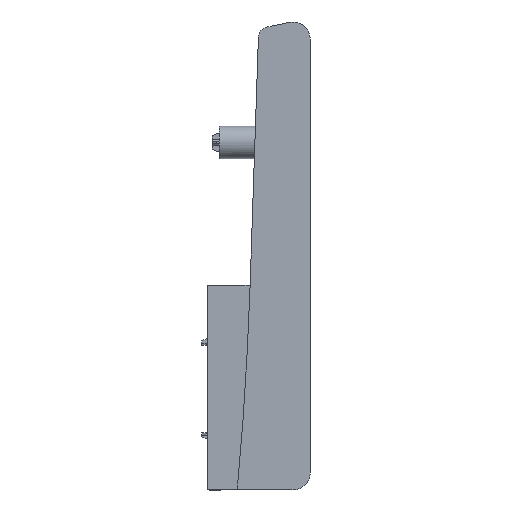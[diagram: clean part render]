
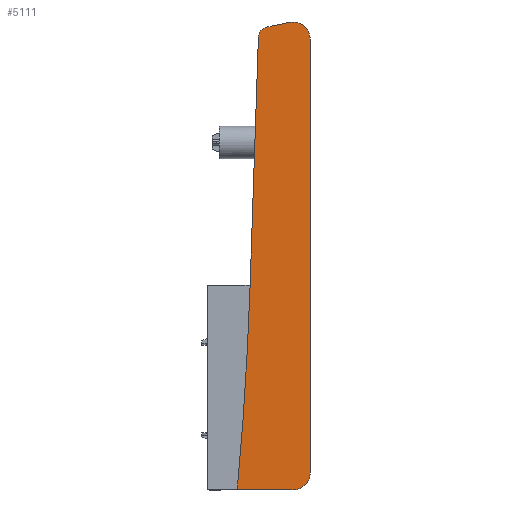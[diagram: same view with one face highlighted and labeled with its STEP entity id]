
A CAD part, top view. The second image highlights one B-rep face of the part: STEP entity #5111.
In plain terms, the highlighted planar face has unit normal (0, 0, 1).
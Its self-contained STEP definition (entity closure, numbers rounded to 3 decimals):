
#96=CIRCLE('',#5434,5.);
#97=CIRCLE('',#5435,1634.007);
#98=CIRCLE('',#5436,1.);
#99=CIRCLE('',#5437,8.);
#100=CIRCLE('',#5438,8.);
#268=FACE_OUTER_BOUND('',#548,.T.);
#548=EDGE_LOOP('',(#3895,#3896,#3897,#3898,#3899,#3900,#3901,#3902,#3903));
#864=LINE('',#7373,#1521);
#1029=LINE('',#7731,#1686);
#1030=LINE('',#7735,#1687);
#1031=LINE('',#7742,#1688);
#1521=VECTOR('',#5928,26.912);
#1686=VECTOR('',#6255,10.748);
#1687=VECTOR('',#6258,115.638);
#1688=VECTOR('',#6265,202.162);
#2179=VERTEX_POINT('',#7370);
#2180=VERTEX_POINT('',#7372);
#2291=VERTEX_POINT('',#7729);
#2292=VERTEX_POINT('',#7730);
#2293=VERTEX_POINT('',#7732);
#2294=VERTEX_POINT('',#7734);
#2295=VERTEX_POINT('',#7736);
#2296=VERTEX_POINT('',#7739);
#2297=VERTEX_POINT('',#7741);
#2712=EDGE_CURVE('',#2180,#2179,#864,.T.);
#2890=EDGE_CURVE('',#2291,#2292,#1029,.T.);
#2891=EDGE_CURVE('',#2293,#2291,#96,.T.);
#2892=EDGE_CURVE('',#2294,#2293,#1030,.T.);
#2893=EDGE_CURVE('',#2295,#2294,#97,.T.);
#2894=EDGE_CURVE('',#2180,#2295,#98,.F.);
#2895=EDGE_CURVE('',#2296,#2179,#99,.T.);
#2896=EDGE_CURVE('',#2297,#2296,#1031,.T.);
#2897=EDGE_CURVE('',#2292,#2297,#100,.T.);
#3895=ORIENTED_EDGE('',*,*,#2890,.F.);
#3896=ORIENTED_EDGE('',*,*,#2891,.F.);
#3897=ORIENTED_EDGE('',*,*,#2892,.F.);
#3898=ORIENTED_EDGE('',*,*,#2893,.F.);
#3899=ORIENTED_EDGE('',*,*,#2894,.F.);
#3900=ORIENTED_EDGE('',*,*,#2712,.T.);
#3901=ORIENTED_EDGE('',*,*,#2895,.F.);
#3902=ORIENTED_EDGE('',*,*,#2896,.F.);
#3903=ORIENTED_EDGE('',*,*,#2897,.F.);
#4862=PLANE('',#5433);
#5111=ADVANCED_FACE('',(#268),#4862,.T.);
#5433=AXIS2_PLACEMENT_3D('',#7728,#6253,#6254);
#5434=AXIS2_PLACEMENT_3D('',#7733,#6256,#6257);
#5435=AXIS2_PLACEMENT_3D('',#7737,#6259,#6260);
#5436=AXIS2_PLACEMENT_3D('',#7738,#6261,#6262);
#5437=AXIS2_PLACEMENT_3D('',#7740,#6263,#6264);
#5438=AXIS2_PLACEMENT_3D('',#7743,#6266,#6267);
#5928=DIRECTION('',(1.,0.,0.));
#6253=DIRECTION('center_axis',(0.,0.,1.));
#6254=DIRECTION('ref_axis',(1.,0.,0.));
#6255=DIRECTION('',(0.979,0.204,0.));
#6256=DIRECTION('center_axis',(0.,0.,-1.));
#6257=DIRECTION('ref_axis',(-0.765,0.644,0.));
#6258=DIRECTION('',(0.033,0.999,0.));
#6259=DIRECTION('center_axis',(0.,0.,1.));
#6260=DIRECTION('ref_axis',(-0.996,0.092,0.));
#6261=DIRECTION('center_axis',(0.,0.,-1.));
#6262=DIRECTION('ref_axis',(0.674,-0.739,0.));
#6263=DIRECTION('center_axis',(0.,0.,-1.));
#6264=DIRECTION('ref_axis',(0.707,-0.707,0.));
#6265=DIRECTION('',(0.,-1.,0.));
#6266=DIRECTION('center_axis',(0.,0.,-1.));
#6267=DIRECTION('ref_axis',(0.631,0.776,0.));
#7370=CARTESIAN_POINT('',(-8.,0.,-0.5));
#7372=CARTESIAN_POINT('',(-34.912,0.,-0.5));
#7373=CARTESIAN_POINT('',(-6.747,0.,-0.5));
#7728=CARTESIAN_POINT('Origin',(-13.493,108.39,-0.5));
#7729=CARTESIAN_POINT('',(-20.154,215.801,-0.5));
#7730=CARTESIAN_POINT('',(-9.632,217.993,-0.5));
#7731=CARTESIAN_POINT('',(-29.608,213.832,-0.5));
#7732=CARTESIAN_POINT('',(-24.131,211.074,-0.5));
#7733=CARTESIAN_POINT('Origin',(-19.134,210.906,-0.5));
#7734=CARTESIAN_POINT('',(-28.,95.5,-0.5));
#7735=CARTESIAN_POINT('',(-27.776,102.18,-0.5));
#7736=CARTESIAN_POINT('',(-33.916,0.909,-0.5));
#7737=CARTESIAN_POINT('Origin',(-1661.092,150.164,-0.5));
#7738=CARTESIAN_POINT('Origin',(-34.912,1.,-0.5));
#7739=CARTESIAN_POINT('',(0.,8.,-0.5));
#7740=CARTESIAN_POINT('Origin',(-8.,8.,-0.5));
#7741=CARTESIAN_POINT('',(0.,210.162,-0.5));
#7742=CARTESIAN_POINT('',(0.,164.195,-0.5));
#7743=CARTESIAN_POINT('Origin',(-8.,210.162,-0.5));
